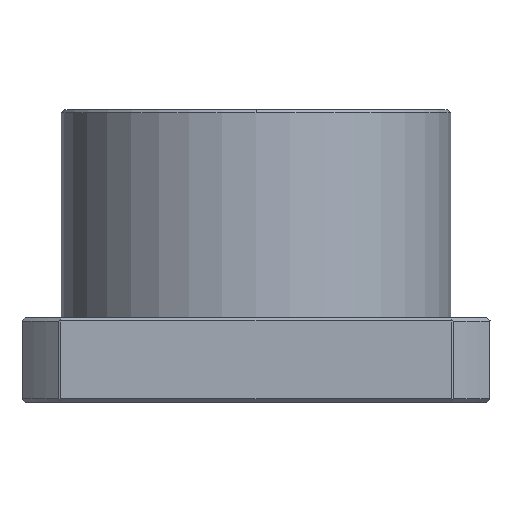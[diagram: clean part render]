
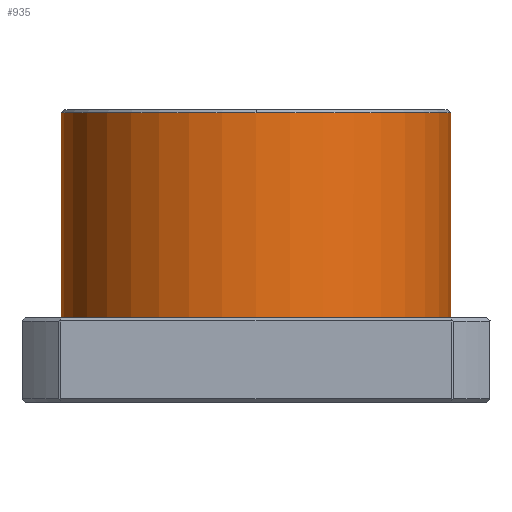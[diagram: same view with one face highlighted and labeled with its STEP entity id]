
A CAD part, left-side view. The second image highlights one B-rep face of the part: STEP entity #935.
In plain terms, the highlighted cylindrical face has radius 30 mm (diameter 60 mm), a partial arc.
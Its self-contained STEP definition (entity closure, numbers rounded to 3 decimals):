
#727 = EDGE_CURVE ( 'NONE', #754, #764, #4281, .T. ) ;
#754 = VERTEX_POINT ( 'NONE', #4346 ) ;
#755 = VERTEX_POINT ( 'NONE', #4345 ) ;
#757 = EDGE_CURVE ( 'NONE', #755, #758, #4344, .T. ) ;
#758 = VERTEX_POINT ( 'NONE', #4340 ) ;
#764 = VERTEX_POINT ( 'NONE', #4391 ) ;
#800 = VERTEX_POINT ( 'NONE', #4449 ) ;
#846 = EDGE_CURVE ( 'NONE', #758, #800, #4550, .T. ) ;
#874 = ORIENTED_EDGE ( 'NONE', *, *, #727, .T. ) ;
#875 = ORIENTED_EDGE ( 'NONE', *, *, #885, .F. ) ;
#876 = ORIENTED_EDGE ( 'NONE', *, *, #846, .F. ) ;
#882 = ORIENTED_EDGE ( 'NONE', *, *, #757, .F. ) ;
#883 = ORIENTED_EDGE ( 'NONE', *, *, #884, .T. ) ;
#884 = EDGE_CURVE ( 'NONE', #755, #754, #4561, .T. ) ;
#885 = EDGE_CURVE ( 'NONE', #800, #764, #4562, .T. ) ;
#935 = ADVANCED_FACE ( 'NONE', ( #4674 ), #4669, .T. ) ;
#936 = EDGE_LOOP ( 'NONE', ( #882, #883, #874, #875, #876 ) ) ;
#4278 = DIRECTION ( 'NONE',  ( 0., 0., 1. ) ) ;
#4279 = VECTOR ( 'NONE', #4278, 1000. ) ;
#4280 = CARTESIAN_POINT ( 'NONE',  ( 0., -30., 13. ) ) ;
#4281 = LINE ( 'NONE', #4280, #4279 ) ;
#4340 = CARTESIAN_POINT ( 'NONE',  ( 0., 30., 44.5 ) ) ;
#4341 = DIRECTION ( 'NONE',  ( 0., 0., 1. ) ) ;
#4342 = VECTOR ( 'NONE', #4341, 1000. ) ;
#4343 = CARTESIAN_POINT ( 'NONE',  ( 0., 30., 13. ) ) ;
#4344 = LINE ( 'NONE', #4343, #4342 ) ;
#4345 = CARTESIAN_POINT ( 'NONE',  ( 0., 30., 13. ) ) ;
#4346 = CARTESIAN_POINT ( 'NONE',  ( 0., -30., 13. ) ) ;
#4391 = CARTESIAN_POINT ( 'NONE',  ( 0., -30., 44.5 ) ) ;
#4449 = CARTESIAN_POINT ( 'NONE',  ( -30., 0., 44.5 ) ) ;
#4546 = DIRECTION ( 'NONE',  ( -1., 0., 0. ) ) ;
#4547 = DIRECTION ( 'NONE',  ( 0., 0., 1. ) ) ;
#4548 = CARTESIAN_POINT ( 'NONE',  ( 0., 0., 44.5 ) ) ;
#4549 = AXIS2_PLACEMENT_3D ( 'NONE', #4548, #4547, #4546 ) ;
#4550 = CIRCLE ( 'NONE', #4549, 30. ) ;
#4557 = DIRECTION ( 'NONE',  ( 0., -1., 0. ) ) ;
#4558 = DIRECTION ( 'NONE',  ( 0., 0., 1. ) ) ;
#4559 = CARTESIAN_POINT ( 'NONE',  ( 0., 0., 13. ) ) ;
#4560 = AXIS2_PLACEMENT_3D ( 'NONE', #4559, #4558, #4557 ) ;
#4561 = CIRCLE ( 'NONE', #4560, 30. ) ;
#4562 = CIRCLE ( 'NONE', #4622, 30. ) ;
#4619 = DIRECTION ( 'NONE',  ( -1., 0., 0. ) ) ;
#4620 = DIRECTION ( 'NONE',  ( 0., 0., 1. ) ) ;
#4621 = CARTESIAN_POINT ( 'NONE',  ( 0., 0., 44.5 ) ) ;
#4622 = AXIS2_PLACEMENT_3D ( 'NONE', #4621, #4620, #4619 ) ;
#4664 = DIRECTION ( 'NONE',  ( 0., -1., 0. ) ) ;
#4665 = DIRECTION ( 'NONE',  ( 0., 0., 1. ) ) ;
#4666 = CARTESIAN_POINT ( 'NONE',  ( 0., 0., 13. ) ) ;
#4667 = AXIS2_PLACEMENT_3D ( 'NONE', #4666, #4665, #4664 ) ;
#4669 = CYLINDRICAL_SURFACE ( 'NONE', #4667, 30. ) ;
#4674 = FACE_OUTER_BOUND ( 'NONE', #936, .T. ) ;
